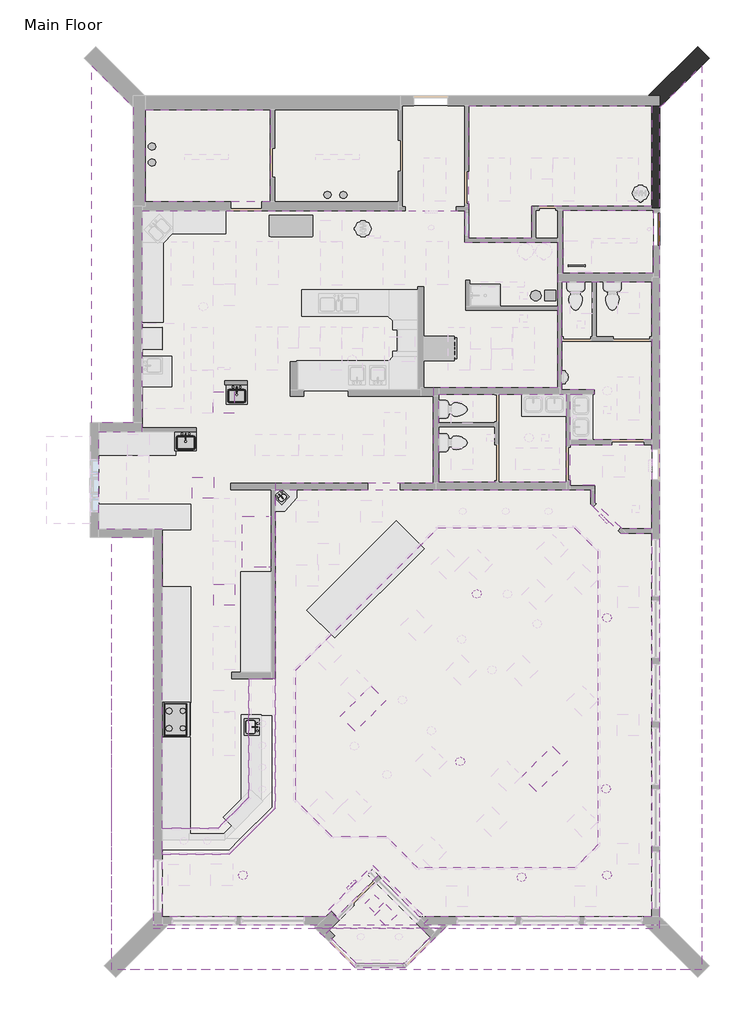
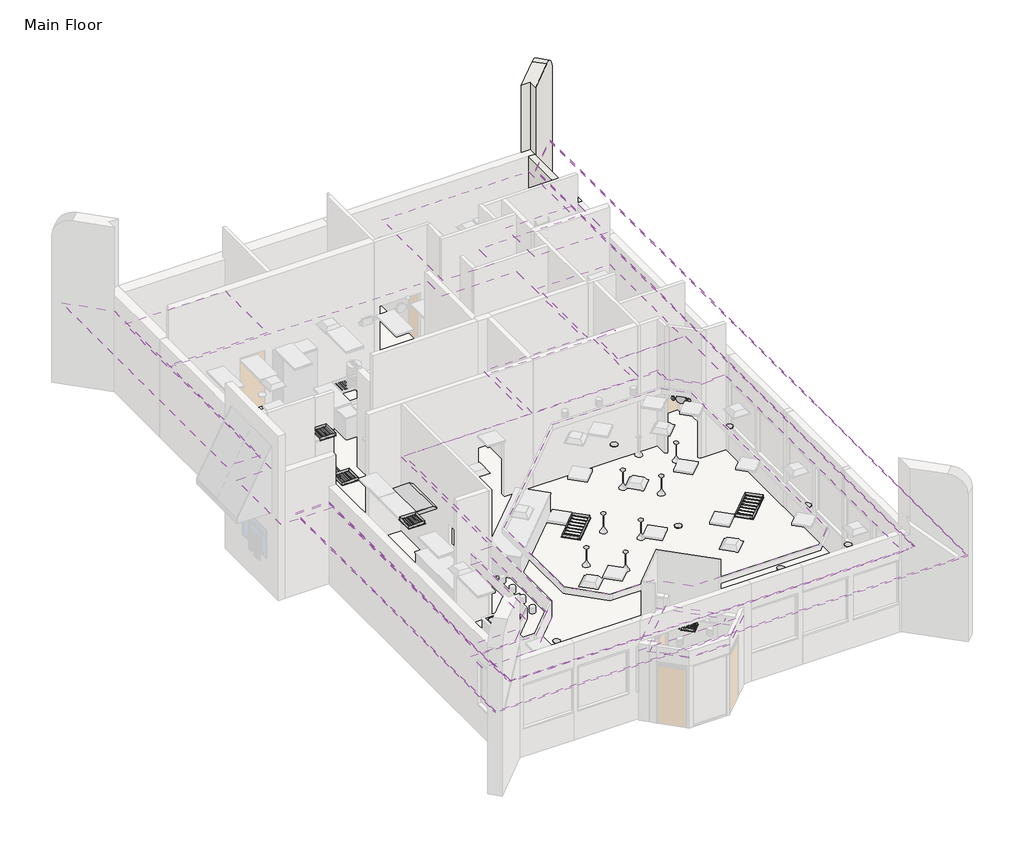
# One storey, part 4 of 6: 18 proxies, 12 coverings, 5 flow terminals, 3 roofs, 2 walls, 1 door, 1 slab.
"""IFC4 building model written with IfcOpenShell, lengths in millimetres."""

from ifc_helpers import new_model, si_unit, point, frame, frame_2d, origin, place, context, project, spatial, polyline, circle_curve, trimmed, segment, composite_curve, outline, extrude, faceted_brep, transform, mapped, element, save
from ifc_brep_helpers import plane_surface, cylinder_surface, advanced_brep
from components import air_vent_default_1_d5ec2509, air_vent_default_1_fb4192dc, air_vent_default_1_fc0a5ae6, air_vent_default_1_b0c71248, default_1_30724830, default_1_ff680e1f, exhaust_hood_default_1_44690a08, speaker_default_1_aa482b27, stove_default_1_1e377b31, door_dec22b3d, flow_terminal_2d_kitchen_single_sink_default_1_dc3512ad, flow_terminal_2d_kitchen_single_sink_default_1_f412850b, flow_terminal_2d_kitchen_single_sink_default_1_0d85b589, flow_terminal_2d_kitchen_single_sink_default_1_8fd3c1d6, kitchen_sink_floor_default_1_fab1836c

model = new_model("IFC4")

# Units and contexts
model_context = context("Model", 3, world=origin())
ifc_project = project(units=[si_unit("LENGTHUNIT", "METRE", prefix="MILLI")], contexts=[model_context])

# Site, building, storey
site = spatial("IfcSite", under=ifc_project)
building = spatial("IfcBuilding", under=site)
storey = spatial("IfcBuildingStorey", under=building, Name="Main Floor", Elevation=0.0)

# Proxies
placement = place(None, origin())
air_vent_default_1_shape = air_vent_default_1_d5ec2509(model_context)
element("IfcBuildingElementProxy", 1, Name="Air Vent : Default 1", ObjectType="Air Vent : Default 1", at=placement, inside=storey, context=model_context, shape_type="MappedRepresentation", body=[
    mapped(air_vent_default_1_shape, transform((-3557.5137673, 3184.3499204, 152.4), x_axis=(1.0, 0.0, 0.0), y_axis=(0.0, 1.0, 0.0), z_axis=(0.0, 0.0, 1.0))),
])
element("IfcBuildingElementProxy", 2, Name="Air Vent : Default 1", ObjectType="Air Vent : Default 1", at=placement, inside=storey, context=model_context, shape_type="MappedRepresentation", body=[
    mapped(air_vent_default_1_shape, transform((-3541.0666136, -2206.8000796, 152.4), x_axis=(1.0, 0.0, 0.0), y_axis=(0.0, 1.0, 0.0), z_axis=(0.0, 0.0, 1.0))),
])
element("IfcBuildingElementProxy", 3, Name="Air Vent : Default 1", ObjectType="Air Vent : Default 1", at=placement, inside=storey, context=model_context, shape_type="MappedRepresentation", body=[
    mapped(air_vent_default_1_shape, transform((-4141.1416136, 796.7499204, 152.4), x_axis=(1.0, 0.0, 0.0), y_axis=(0.0, 1.0, 0.0), z_axis=(0.0, 0.0, 1.0))),
])
air_vent_default_1_2_shape = air_vent_default_1_fb4192dc(model_context)
element("IfcBuildingElementProxy", 4, Name="Air Vent : Default 1", ObjectType="Air Vent : Default 1", at=placement, inside=storey, context=model_context, shape_type="MappedRepresentation", body=[
    mapped(air_vent_default_1_2_shape, transform((5438.6516117, -7089.6550599, 508.0), x_axis=(0.7071067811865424, 0.7071067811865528, 0.0), y_axis=(-0.7071067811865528, 0.7071067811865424, 0.0), z_axis=(0.0, 0.0, 1.0))),
])
element("IfcBuildingElementProxy", 5, Name="Air Vent : Default 1", ObjectType="Air Vent : Default 1", at=placement, inside=storey, context=model_context, shape_type="MappedRepresentation", body=[
    mapped(air_vent_default_1_2_shape, transform((350.4595966, -5395.8311867, 508.0), x_axis=(0.7071067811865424, 0.7071067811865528, 0.0), y_axis=(-0.7071067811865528, 0.7071067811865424, 0.0), z_axis=(0.0, 0.0, 1.0))),
])
air_vent_default_1_3_shape = air_vent_default_1_fc0a5ae6(model_context)
element("IfcBuildingElementProxy", 6, Name="Air Vent : Default 1", ObjectType="Air Vent : Default 1", at=placement, inside=storey, context=model_context, shape_type="MappedRepresentation", body=[
    mapped(air_vent_default_1_3_shape, transform((659.7977661, -10862.4632775, 101.6), x_axis=(0.7071067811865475, -0.7071067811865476, 0.0), y_axis=(0.7071067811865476, 0.7071067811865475, 0.0), z_axis=(0.0, 0.0, 1.0))),
])
air_vent_default_1_4_shape = air_vent_default_1_b0c71248(model_context)
element("IfcBuildingElementProxy", 7, Name="Air Vent : Default 1", ObjectType="Air Vent : Default 1", at=placement, inside=storey, context=model_context, shape_type="MappedRepresentation", body=[
    mapped(air_vent_default_1_4_shape, transform((984.3109825, -11186.9764939, 101.6), x_axis=(0.7071067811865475, -0.7071067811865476, 0.0), y_axis=(0.7071067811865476, 0.7071067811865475, 0.0), z_axis=(0.0, 0.0, 1.0))),
])
default_1_shape = default_1_30724830(model_context)
element("IfcBuildingElementProxy", 8, Name="Emegency Light - Wall Mounted : Default 1", ObjectType="Emegency Light - Wall Mounted : Default 1", at=placement, inside=storey, context=model_context, shape_type="MappedRepresentation", body=[
    mapped(default_1_shape, transform((7131.2811461, -48.2570576, 304.8), x_axis=(0.7071067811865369, -0.7071067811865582, 0.0), y_axis=(0.7071067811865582, 0.7071067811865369, 0.0), z_axis=(0.0, 0.0, 1.0))),
])
default_1_2_shape = default_1_ff680e1f(model_context)
element("IfcBuildingElementProxy", 9, Name="Emegency Light - Wall Mounted : Default 1", ObjectType="Emegency Light - Wall Mounted : Default 1", at=placement, inside=storey, context=model_context, shape_type="MappedRepresentation", body=[
    mapped(default_1_2_shape, transform((56.5683228, -10361.2626393, 304.8), x_axis=(-0.7071067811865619, -0.7071067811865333, 0.0), y_axis=(0.7071067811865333, -0.7071067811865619, 0.0), z_axis=(0.0, 0.0, 1.0))),
])
exhaust_hood_default_1_shape = exhaust_hood_default_1_44690a08(model_context)
element("IfcBuildingElementProxy", 10, Name="Exhaust Hood : Default 1", ObjectType="Exhaust Hood : Default 1", at=placement, inside=storey, context=model_context, shape_type="MappedRepresentation", body=[
    mapped(exhaust_hood_default_1_shape, transform((-3039.4166136, -1432.1000796, 0.0), x_axis=(1.0, 0.0, 0.0), y_axis=(0.0, 1.0, 0.0), z_axis=(0.0, 0.0, 1.0))),
])
speaker_default_1_shape = speaker_default_1_aa482b27(model_context)
element("IfcBuildingElementProxy", 11, Name="Speaker : Default 1", ObjectType="Speaker : Default 1", at=placement, inside=storey, context=model_context, shape_type="MappedRepresentation", body=[
    mapped(speaker_default_1_shape, transform((7167.0833864, -7646.1501819, 304.8), x_axis=(1.0, 0.0, 0.0), y_axis=(0.0, 1.0, 0.0), z_axis=(0.0, 0.0, 1.0))),
])
element("IfcBuildingElementProxy", 12, Name="Speaker : Default 1", ObjectType="Speaker : Default 1", at=placement, inside=storey, context=model_context, shape_type="MappedRepresentation", body=[
    mapped(speaker_default_1_shape, transform((7192.4833864, -2848.4642657, 304.8), x_axis=(1.0, 0.0, 0.0), y_axis=(0.0, 1.0, 0.0), z_axis=(0.0, 0.0, 1.0))),
])
element("IfcBuildingElementProxy", 13, Name="Speaker : Default 1", ObjectType="Speaker : Default 1", at=placement, inside=storey, context=model_context, shape_type="MappedRepresentation", body=[
    mapped(speaker_default_1_shape, transform((7192.4833864, -10067.4696543, 304.8), x_axis=(1.0, 0.0, 0.0), y_axis=(0.0, 1.0, 0.0), z_axis=(0.0, 0.0, 1.0))),
])
element("IfcBuildingElementProxy", 14, Name="Speaker : Default 1", ObjectType="Speaker : Default 1", at=placement, inside=storey, context=model_context, shape_type="MappedRepresentation", body=[
    mapped(speaker_default_1_shape, transform((4798.5333864, -10124.6196543, 304.8), x_axis=(1.0, 0.0, 0.0), y_axis=(0.0, 1.0, 0.0), z_axis=(0.0, 0.0, 1.0))),
])
element("IfcBuildingElementProxy", 15, Name="Speaker : Default 1", ObjectType="Speaker : Default 1", at=placement, inside=storey, context=model_context, shape_type="MappedRepresentation", body=[
    mapped(speaker_default_1_shape, transform((-3018.1033829, -10068.1000796, 304.8), x_axis=(1.0, 0.0, 0.0), y_axis=(0.0, 1.0, 0.0), z_axis=(0.0, 0.0, 1.0))),
])
element("IfcBuildingElementProxy", 16, Name="Speaker : Default 1", ObjectType="Speaker : Default 1", at=placement, inside=storey, context=model_context, shape_type="MappedRepresentation", body=[
    mapped(speaker_default_1_shape, transform((3542.9229313, -2180.0353281, 508.0), x_axis=(1.0, 0.0, 0.0), y_axis=(0.0, 1.0, 0.0), z_axis=(0.0, 0.0, 1.0))),
])
element("IfcBuildingElementProxy", 17, Name="Speaker : Default 1", ObjectType="Speaker : Default 1", at=placement, inside=storey, context=model_context, shape_type="MappedRepresentation", body=[
    mapped(speaker_default_1_shape, transform((3075.6333864, -6878.6951564, 508.0), x_axis=(1.0, 0.0, 0.0), y_axis=(0.0, 1.0, 0.0), z_axis=(0.0, 0.0, 1.0))),
])
stove_default_1_shape = stove_default_1_1e377b31(model_context)
element("IfcBuildingElementProxy", 18, Name="Stove : Default 1", ObjectType="Stove : Default 1", at=placement, inside=storey, context=model_context, shape_type="MappedRepresentation", body=[
    mapped(stove_default_1_shape, transform((-5280.7666136, -5704.6500796, 0.0), x_axis=(0.0, 1.0, 0.0), y_axis=(-1.0, 0.0, 0.0), z_axis=(0.0, 0.0, 1.0))),
])

# Coverings
element("IfcCovering", 19, ObjectType="1/2\" Ceiling", at=placement, inside=storey, context=model_context, shape_type="SweptSolid", body=[
    extrude(outline(polyline([(-5846.1166136, 8569.1499204), (3202.6333864, 8569.1499204), (3202.6333864, 7680.1499204), (5812.4833864, 7680.1499204), (5812.4833864, 5883.0999204), (5812.4833864, 3603.4499204), (2313.6333864, 3603.4499204), (2313.6333864, 923.7499204), (-2112.3166136, 923.7499204), (-2112.3166136, -4556.3000796), (-2848.9166136, -4556.3000796), (-2848.9166136, -7886.6107256), (-3709.6059676, -8747.3000796), (-5274.6166136, -8747.3000796), (-5274.6166136, -365.3000796), (-7058.9666136, -365.3000796), (-7058.9666136, 2365.1999204), (-5846.1166136, 2365.1999204), (-5846.1166136, 8569.1499204)]), holes=[polyline([(4567.8833864, 5279.8499204), (4567.8833864, 4111.4499204), (5126.6833864, 4111.4499204), (5126.6833864, 5279.8499204), (4567.8833864, 5279.8499204)]), polyline([(2770.8333864, 5279.8499204), (2770.8333864, 4111.4499204), (3329.6333864, 4111.4499204), (3329.6333864, 5279.8499204), (2770.8333864, 5279.8499204)]), polyline([(4531.0515232, 4721.0499204), (4531.0515232, 5279.8499204), (3972.2515232, 5279.8499204), (3972.2515232, 4721.0499204), (4531.0515232, 4721.0499204)]), polyline([(4933.353255, 5463.9999204), (4933.353255, 5629.0999204), (4768.253255, 5629.0999204), (4768.253255, 5463.9999204), (4933.353255, 5463.9999204)]), polyline([(4531.0515232, 4124.1499204), (4531.0515232, 4682.9499204), (3972.2515232, 4682.9499204), (3972.2515232, 4124.1499204), (4531.0515232, 4124.1499204)]), polyline([(3934.1515232, 4124.1499204), (3934.1515232, 4682.9499204), (3375.3515232, 4682.9499204), (3375.3515232, 4124.1499204), (3934.1515232, 4124.1499204)]), polyline([(4933.353255, 6098.9999204), (4933.353255, 6264.0999204), (4768.253255, 6264.0999204), (4768.253255, 6098.9999204), (4933.353255, 6098.9999204)]), polyline([(2154.8833864, 7680.1499204), (2154.8833864, 6511.7499204), (2713.6833864, 6511.7499204), (2713.6833864, 7680.1499204), (2154.8833864, 7680.1499204)]), polyline([(942.0333864, 7680.1499204), (942.0333864, 6511.7499204), (1500.8333864, 6511.7499204), (1500.8333864, 7680.1499204), (942.0333864, 7680.1499204)]), polyline([(-810.5666136, 7673.7999204), (-810.5666136, 6505.3999204), (-251.7666136, 6505.3999204), (-251.7666136, 7673.7999204), (-810.5666136, 7673.7999204)]), polyline([(-2607.6166136, 7680.1499204), (-2607.6166136, 6511.7499204), (-2048.8166136, 6511.7499204), (-2048.8166136, 7680.1499204), (-2607.6166136, 7680.1499204)]), polyline([(-3807.7666136, 7692.0474007), (-3807.7666136, 6523.6474007), (-3248.9666136, 6523.6474007), (-3248.9666136, 7692.0474007), (-3807.7666136, 7692.0474007)]), polyline([(-5001.5666136, 7673.7999204), (-5001.5666136, 6505.3999204), (-4442.7666136, 6505.3999204), (-4442.7666136, 7673.7999204), (-5001.5666136, 7673.7999204)]), polyline([(-870.115512, 4731.488886), (-870.115512, 5290.288886), (-1428.915512, 5290.288886), (-1428.915512, 4731.488886), (-870.115512, 4731.488886)]), polyline([(-1467.0156402, 4731.4890104), (-1467.0156402, 5290.2890104), (-2025.8156402, 5290.2890104), (-2025.8156402, 4731.4890104), (-1467.0156402, 4731.4890104)]), polyline([(-829.6166136, 5286.1999204), (-829.6166136, 4117.7999204), (-270.8166136, 4117.7999204), (-270.8166136, 5286.1999204), (-829.6166136, 5286.1999204)]), polyline([(364.1833864, 5279.8499204), (364.1833864, 4111.4499204), (922.9833864, 4111.4499204), (922.9833864, 5279.8499204), (364.1833864, 5279.8499204)]), polyline([(-4436.4166136, 5279.8499204), (-4436.4166136, 4111.4499204), (-3877.6166136, 4111.4499204), (-3877.6166136, 5279.8499204), (-4436.4166136, 5279.8499204)]), polyline([(-4436.4166136, 4073.3499204), (-4436.4166136, 2904.9499204), (-3877.6166136, 2904.9499204), (-3877.6166136, 4073.3499204), (-4436.4166136, 4073.3499204)]), polyline([(-3278.1137673, 2904.9499204), (-3278.1137673, 3463.7499204), (-3836.9137673, 3463.7499204), (-3836.9137673, 2904.9499204), (-3278.1137673, 2904.9499204)]), polyline([(-1483.6666136, 2276.2999204), (-2652.0666136, 2276.2999204), (-2652.0666136, 1717.4999204), (-1483.6666136, 1717.4999204), (-1483.6666136, 2276.2999204)]), polyline([(-264.4666136, 2276.2999204), (-1432.8666136, 2276.2999204), (-1432.8666136, 1717.4999204), (-264.4666136, 1717.4999204), (-264.4666136, 2276.2999204)]), polyline([(967.4333864, 2885.8999204), (967.4333864, 1717.4999204), (1526.2333864, 1717.4999204), (1526.2333864, 2885.8999204), (967.4333864, 2885.8999204)]), polyline([(-3826.8166136, -5521.5000796), (-3826.8166136, -6689.9000796), (-3268.0166136, -6689.9000796), (-3268.0166136, -5521.5000796), (-3826.8166136, -5521.5000796)]), polyline([(-3820.4666136, -3108.5000796), (-3820.4666136, -4276.9000796), (-3261.6666136, -4276.9000796), (-3261.6666136, -3108.5000796), (-3820.4666136, -3108.5000796)]), polyline([(-3261.6666136, -2486.2000796), (-3261.6666136, -1927.4000796), (-3820.4666136, -1927.4000796), (-3820.4666136, -2486.2000796), (-3261.6666136, -2486.2000796)]), polyline([(-3820.4666136, -714.5500796), (-3820.4666136, -1882.9500796), (-3261.6666136, -1882.9500796), (-3261.6666136, -714.5500796), (-3820.4666136, -714.5500796)]), polyline([(-3820.4666136, 479.2499204), (-3820.4666136, -689.1500796), (-3261.6666136, -689.1500796), (-3261.6666136, 479.2499204), (-3820.4666136, 479.2499204)]), polyline([(-3861.7416136, 517.3499204), (-3861.7416136, 1076.1499204), (-4420.5416136, 1076.1499204), (-4420.5416136, 517.3499204), (-3861.7416136, 517.3499204)]), polyline([(-6246.1666136, 1673.0499204), (-6246.1666136, 504.6499204), (-5687.3666136, 504.6499204), (-5687.3666136, 1673.0499204), (-6246.1666136, 1673.0499204)]), polyline([(-2629.6166136, 5286.1999204), (-2629.6166136, 4117.7999204), (-2070.8166136, 4117.7999204), (-2070.8166136, 5286.1999204), (-2629.6166136, 5286.1999204)])]), frame((0.0, 0.0, 2590.8), z_axis=(0.0, 0.0, 1.0), x_axis=(1.0, 0.0, 0.0)), (0.0, 0.0, 1.0), 12.7),
])
element("IfcCovering", 20, ObjectType="1/2\" Ceiling", at=placement, inside=storey, context=model_context, shape_type="SweptSolid", body=[
    extrude(outline(polyline([(-2848.9166136, -4556.3000796), (-2112.3166136, -4556.3000796), (-2112.3166136, -8191.7204356), (-3404.4962576, -9483.9000796), (-5274.6166136, -9483.9000796), (-5274.6166136, -8747.3000796), (-3709.6059676, -8747.3000796), (-2848.9166136, -7886.6107256), (-2848.9166136, -4556.3000796)]), holes=[composite_curve([segment(trimmed(circle_curve(frame_2d((-4671.3666136, -9111.2045545)), 87.3), [point((-4584.0666136, -9111.2045545))], [point((-4758.6666136, -9111.2045545))], True, "CARTESIAN"), True, "CONTINUOUS"), segment(trimmed(circle_curve(frame_2d((-4671.3666136, -9111.2045545)), 87.3), [point((-4758.6666136, -9111.2045545))], [point((-4584.0666136, -9111.2045545))], True, "CARTESIAN"), True, "CONTINUOUS")], self_intersect=False), composite_curve([segment(trimmed(circle_curve(frame_2d((-4017.3166136, -9111.2045545)), 87.3), [point((-3930.0166136, -9111.2045545))], [point((-4104.6166136, -9111.2045545))], True, "CARTESIAN"), True, "CONTINUOUS"), segment(trimmed(circle_curve(frame_2d((-4017.3166136, -9111.2045545)), 87.3), [point((-4104.6166136, -9111.2045545))], [point((-3930.0166136, -9111.2045545))], True, "CARTESIAN"), True, "CONTINUOUS")], self_intersect=False), composite_curve([segment(trimmed(circle_curve(frame_2d((-2474.2666136, -7655.1000796)), 87.3), [point((-2386.9666136, -7655.1000796))], [point((-2561.5666136, -7655.1000796))], True, "CARTESIAN"), True, "CONTINUOUS"), segment(trimmed(circle_curve(frame_2d((-2474.2666136, -7655.1000796)), 87.3), [point((-2561.5666136, -7655.1000796))], [point((-2386.9666136, -7655.1000796))], True, "CARTESIAN"), True, "CONTINUOUS")], self_intersect=False), composite_curve([segment(trimmed(circle_curve(frame_2d((-2474.2666136, -7043.383413)), 87.3), [point((-2386.9666136, -7043.383413))], [point((-2561.5666136, -7043.383413))], True, "CARTESIAN"), True, "CONTINUOUS"), segment(trimmed(circle_curve(frame_2d((-2474.2666136, -7043.383413)), 87.3), [point((-2561.5666136, -7043.383413))], [point((-2386.9666136, -7043.383413))], True, "CARTESIAN"), True, "CONTINUOUS")], self_intersect=False), composite_curve([segment(trimmed(circle_curve(frame_2d((-2474.2666136, -6431.6667463)), 87.3), [point((-2386.9666136, -6431.6667463))], [point((-2561.5666136, -6431.6667463))], True, "CARTESIAN"), True, "CONTINUOUS"), segment(trimmed(circle_curve(frame_2d((-2474.2666136, -6431.6667463)), 87.3), [point((-2561.5666136, -6431.6667463))], [point((-2386.9666136, -6431.6667463))], True, "CARTESIAN"), True, "CONTINUOUS")], self_intersect=False), composite_curve([segment(trimmed(circle_curve(frame_2d((-2474.2666136, -5819.9500796)), 87.3), [point((-2386.9666136, -5819.9500796))], [point((-2561.5666136, -5819.9500796))], True, "CARTESIAN"), True, "CONTINUOUS"), segment(trimmed(circle_curve(frame_2d((-2474.2666136, -5819.9500796)), 87.3), [point((-2561.5666136, -5819.9500796))], [point((-2386.9666136, -5819.9500796))], True, "CARTESIAN"), True, "CONTINUOUS")], self_intersect=False)]), frame((0.0, 0.0, 2184.4), z_axis=(0.0, 0.0, 1.0), x_axis=(1.0, 0.0, 0.0)), (0.0, 0.0, 1.0), 12.7),
])
element("IfcCovering", 21, ObjectType="1/2\" Ceiling", at=placement, inside=storey, context=model_context, shape_type="SweptSolid", body=[
    extrude(outline(polyline([(6936.4333864, -9217.2000796), (6289.3638117, -9864.2696543), (1884.5145011, -9864.2696543), (1004.4494013, -8984.2045545), (-519.5505987, -8984.2045545), (-1543.2997965, -7960.4553567), (-1543.2997965, -4328.2553567), (2461.8944335, -323.0611267), (6271.8944335, -323.0611267), (6936.4333864, -987.6000796), (6936.4333864, -9217.2000796)]), holes=[polyline([(2255.8586998, -9021.572648), (1860.7274304, -9416.7039173), (2255.8586998, -9811.8351867), (2650.9899691, -9416.7039173), (2255.8586998, -9021.572648)]), polyline([(145.4155812, -7742.7394651), (-249.7156881, -8137.8707344), (145.4155812, -8533.0020037), (540.5468505, -8137.8707344), (145.4155812, -7742.7394651)]), polyline([(6504.1654832, -1381.5157396), (6109.0342139, -1776.6470089), (6504.1654832, -2171.7782782), (6899.2967525, -1776.6470089), (6504.1654832, -1381.5157396)]), polyline([(5659.4343476, -536.784604), (5264.3030783, -931.9158733), (5659.4343476, -1327.0471426), (6054.565617, -931.9158733), (5659.4343476, -536.784604)]), polyline([(157.38409, -4340.6510925), (-237.7471793, -4735.7823618), (157.38409, -5130.9136311), (552.5153594, -4735.7823618), (157.38409, -4340.6510925)]), polyline([(1842.812782, -2666.3519534), (1447.6815126, -3061.4832227), (1842.812782, -3456.6144921), (2237.9440513, -3061.4832227), (1842.812782, -2666.3519534)]), polyline([(3549.0109938, -960.1537415), (3153.8797245, -1355.2850109), (3549.0109938, -1750.4162802), (3944.1422632, -1355.2850109), (3549.0109938, -960.1537415)]), polyline([(6505.451978, -8175.4194842), (6110.3207087, -8570.5507535), (6505.451978, -8965.6820228), (6900.5832474, -8570.5507535), (6505.451978, -8175.4194842)]), polyline([(5658.6678866, -6474.5075156), (4823.5040674, -7309.6713349), (5218.6353367, -7704.8026042), (6053.799156, -6869.6387849), (5658.6678866, -6474.5075156)]), polyline([(4374.3073523, -6894.0667839), (3979.176083, -7289.1980532), (4374.3073523, -7684.3293225), (4769.4386216, -7289.1980532), (4374.3073523, -6894.0667839)]), polyline([(6500.17871, -4786.3165509), (6105.0474407, -5181.4478202), (6500.17871, -5576.5790895), (6895.3099793, -5181.4478202), (6500.17871, -4786.3165509)]), polyline([(2261.7972579, -6482.8871859), (1866.6659886, -6878.0184552), (2261.7972579, -7273.1497246), (2656.9285272, -6878.0184552), (2261.7972579, -6482.8871859)]), polyline([(4815.0906433, -3937.0457605), (4419.959374, -4332.1770298), (4815.0906433, -4727.3082991), (5210.2219127, -4332.1770298), (4815.0906433, -3937.0457605)]), polyline([(570.4758716, -4780.6836424), (-264.6879477, -5615.8474617), (130.4433217, -6010.978731), (965.6071409, -5175.8149117), (570.4758716, -4780.6836424)])]), frame((0.0, 0.0, 2946.4), z_axis=(0.0, 0.0, 1.0), x_axis=(1.0, 0.0, 0.0)), (0.0, 0.0, 1.0), 12.7),
])
element("IfcCovering", 22, ObjectType="1/2\" Ceiling", at=placement, inside=storey, context=model_context, shape_type="SweptSolid", body=[
    extrude(outline(polyline([(-2112.3166136, 745.9499204), (6739.5833864, 745.9499204), (6739.5833864, 327.8971204), (7573.8358864, -473.2500796), (8447.7333864, -473.2500796), (8447.7333864, -11229.6312018), (1924.9913024, -11229.6312018), (772.1216783, -10076.7615776), (-402.2417187, -11251.1249745), (-554.9060727, -11098.4606205), (-686.076654, -11229.6312018), (-5274.6166136, -11229.6312018), (-5274.6166136, -9483.9000796), (-3404.4962576, -9483.9000796), (-2112.3166136, -8191.7204356), (-2112.3166136, -4556.3000796), (-2112.3166136, 745.9499204)]), holes=[polyline([(-1543.2997965, -4328.2553567), (-1543.2997965, -7960.4553567), (-519.5505987, -8984.2045545), (1004.4494013, -8984.2045545), (1884.5145011, -9864.2696543), (6289.3638117, -9864.2696543), (6936.4333864, -9217.2000796), (6936.4333864, -987.6000796), (6271.8944335, -323.0611267), (2461.8944335, -323.0611267), (-1543.2997965, -4328.2553567)]), polyline([(-3335.8166136, -9776.0000796), (-3894.6166136, -9776.0000796), (-3894.6166136, -10334.8000796), (-3335.8166136, -10334.8000796), (-3335.8166136, -9776.0000796)]), polyline([(-934.3916136, 418.9249204), (-1493.1916136, 418.9249204), (-1493.1916136, -139.8750796), (-934.3916136, -139.8750796), (-934.3916136, 418.9249204)]), polyline([(869.0083864, 418.9249204), (310.2083864, 418.9249204), (310.2083864, -139.8750796), (869.0083864, -139.8750796), (869.0083864, 418.9249204)]), polyline([(-934.3916136, -1384.4750796), (-1493.1916136, -1384.4750796), (-1493.1916136, -1943.2750796), (-934.3916136, -1943.2750796), (-934.3916136, -1384.4750796)]), composite_curve([segment(trimmed(circle_curve(frame_2d((5552.1333864, 134.1388733)), 87.3), [point((5639.4333864, 134.1388733))], [point((5464.8333864, 134.1388733))], True, "CARTESIAN"), True, "CONTINUOUS"), segment(trimmed(circle_curve(frame_2d((5552.1333864, 134.1388733)), 87.3), [point((5464.8333864, 134.1388733))], [point((5639.4333864, 134.1388733))], True, "CARTESIAN"), True, "CONTINUOUS")], self_intersect=False), composite_curve([segment(trimmed(circle_curve(frame_2d((4352.1333864, 134.1388733)), 87.3), [point((4439.4333864, 134.1388733))], [point((4264.8333864, 134.1388733))], True, "CARTESIAN"), True, "CONTINUOUS"), segment(trimmed(circle_curve(frame_2d((4352.1333864, 134.1388733)), 87.3), [point((4264.8333864, 134.1388733))], [point((4439.4333864, 134.1388733))], True, "CARTESIAN"), True, "CONTINUOUS")], self_intersect=False), composite_curve([segment(trimmed(circle_curve(frame_2d((3152.1333864, 134.1388733)), 87.3), [point((3239.4333864, 134.1388733))], [point((3064.8333864, 134.1388733))], True, "CARTESIAN"), True, "CONTINUOUS"), segment(trimmed(circle_curve(frame_2d((3152.1333864, 134.1388733)), 87.3), [point((3064.8333864, 134.1388733))], [point((3239.4333864, 134.1388733))], True, "CARTESIAN"), True, "CONTINUOUS")], self_intersect=False)]), frame((0.0, 0.0, 2743.2), z_axis=(0.0, 0.0, 1.0), x_axis=(1.0, 0.0, 0.0)), (0.0, 0.0, 1.0), 12.7),
])
element("IfcCovering", 23, ObjectType="1/2\" Ceiling", at=placement, inside=storey, context=model_context, shape_type="SweptSolid", body=[
    extrude(outline(polyline([(6853.8833864, 860.2475204), (6168.0833864, 860.2475204), (6168.0833864, 2009.5999204), (8447.7333864, 2009.5999204), (8447.7333864, -358.9500796), (7619.8309189, -358.9500796), (6853.8833864, 376.6026708), (6853.8833864, 860.2475204)]), holes=[polyline([(8079.4333864, 281.5390826), (7914.3333864, 281.5390826), (7914.3333864, 116.4390826), (8079.4333864, 116.4390826), (8079.4333864, 281.5390826)]), polyline([(7660.3333864, 1682.0892324), (7101.5333864, 1682.0892324), (7101.5333864, 1123.2892324), (7660.3333864, 1123.2892324), (7660.3333864, 1682.0892324)])]), frame((0.0, 0.0, 2692.4), z_axis=(0.0, 0.0, 1.0), x_axis=(1.0, 0.0, 0.0)), (0.0, 0.0, 1.0), 12.7),
])
element("IfcCovering", 24, ObjectType="1/2\" Ceiling", at=placement, inside=storey, context=model_context, shape_type="SweptSolid", body=[
    extrude(outline(polyline([(2478.7333864, 949.1499204), (2478.7333864, 3425.6499204), (5869.6333864, 3425.6499204), (6053.7833864, 3425.6499204), (6053.7833864, 949.1499204), (2478.7333864, 949.1499204)]), holes=[polyline([(5831.5333864, 1888.9499204), (4663.1333864, 1888.9499204), (4663.1333864, 1330.1499204), (5831.5333864, 1330.1499204), (5831.5333864, 1888.9499204)]), polyline([(5545.7833864, 2117.5499204), (5545.7833864, 2282.6499204), (5380.6833864, 2282.6499204), (5380.6833864, 2117.5499204), (5545.7833864, 2117.5499204)]), polyline([(4009.0833864, 2117.5499204), (4009.0833864, 2282.6499204), (3843.9833864, 2282.6499204), (3843.9833864, 2117.5499204), (4009.0833864, 2117.5499204)]), polyline([(3405.8333864, 1888.9499204), (2847.0333864, 1888.9499204), (2847.0333864, 1330.1499204), (3405.8333864, 1330.1499204), (3405.8333864, 1888.9499204)]), polyline([(3405.8333864, 3197.0499204), (2847.0333864, 3197.0499204), (2847.0333864, 2638.2499204), (3405.8333864, 2638.2499204), (3405.8333864, 3197.0499204)])]), frame((0.0, 0.0, 2590.8), z_axis=(0.0, 0.0, 1.0), x_axis=(1.0, 0.0, 0.0)), (0.0, 0.0, 1.0), 12.7),
])
element("IfcCovering", 25, ObjectType="1/2\" Ceiling", at=placement, inside=storey, context=model_context, shape_type="SweptSolid", body=[
    extrude(outline(polyline([(6168.0833864, 3425.6499204), (6841.1833864, 3425.6499204), (6841.1833864, 3539.9499204), (5926.7833864, 3539.9499204), (5926.7833864, 6581.5999204), (8447.7333864, 6581.5999204), (8447.7333864, 2136.5999204), (6168.0833864, 2136.5999204), (6168.0833864, 3425.6499204)]), holes=[polyline([(7511.1083864, 3882.9454526), (7511.1083864, 2714.5454526), (8069.9083864, 2714.5454526), (8069.9083864, 3882.9454526), (7511.1083864, 3882.9454526)]), polyline([(7285.6833864, 2892.2499204), (7285.6833864, 3057.3499204), (7120.5833864, 3057.3499204), (7120.5833864, 2892.2499204), (7285.6833864, 2892.2499204)]), polyline([(8073.0833864, 6257.7499204), (7514.2833864, 6257.7499204), (7514.2833864, 5698.9499204), (8073.0833864, 5698.9499204), (8073.0833864, 6257.7499204)]), polyline([(6752.2833864, 6257.7499204), (6193.4833864, 6257.7499204), (6193.4833864, 5698.9499204), (6752.2833864, 5698.9499204), (6752.2833864, 6257.7499204)]), polyline([(6549.0833864, 5457.6499204), (6383.9833864, 5457.6499204), (6383.9833864, 5292.5499204), (6549.0833864, 5292.5499204), (6549.0833864, 5457.6499204)])]), frame((0.0, 0.0, 2590.8), z_axis=(0.0, 0.0, 1.0), x_axis=(1.0, 0.0, 0.0)), (0.0, 0.0, 1.0), 12.7),
])
element("IfcCovering", 26, ObjectType="1/2\" Ceiling", at=placement, inside=storey, context=model_context, shape_type="SweptSolid", body=[
    extrude(outline(polyline([(5196.5333864, 8575.4999204), (5812.4833864, 8575.4999204), (5812.4833864, 7794.4499204), (5196.5333864, 7794.4499204), (5196.5333864, 8575.4999204)])), frame((0.0, 0.0, 3048.0), z_axis=(0.0, 0.0, 1.0), x_axis=(1.0, 0.0, 0.0)), (0.0, 0.0, 1.0), 12.7),
    extrude(outline(polyline([(8447.7333864, 8689.7999204), (5082.2333864, 8689.7999204), (5082.2333864, 7794.4499204), (3316.9333864, 7794.4499204), (3316.9333864, 11509.1999204), (8447.7333864, 11509.1999204), (8447.7333864, 8689.7999204)]), holes=[polyline([(3889.061012, 10029.6499204), (3889.061012, 8861.2499204), (4447.861012, 8861.2499204), (4447.861012, 10029.6499204), (3889.061012, 10029.6499204)]), polyline([(5692.461012, 10029.6499204), (5692.461012, 8861.2499204), (6251.261012, 8861.2499204), (6251.261012, 10029.6499204), (5692.461012, 10029.6499204)]), polyline([(7489.511012, 10029.6499204), (7489.511012, 8861.2499204), (8048.311012, 8861.2499204), (8048.311012, 10029.6499204), (7489.511012, 10029.6499204)])]), frame((0.0, 0.0, 3048.0), z_axis=(0.0, 0.0, 1.0), x_axis=(1.0, 0.0, 0.0)), (0.0, 0.0, 1.0), 12.7),
    extrude(outline(polyline([(3202.6333864, 8683.4499204), (1456.3833864, 8683.4499204), (1456.3833864, 11509.1999204), (3202.6333864, 11509.1999204), (3202.6333864, 8683.4499204)]), holes=[polyline([(2085.661012, 10029.6499204), (2085.661012, 8861.2499204), (2644.461012, 8861.2499204), (2644.461012, 10029.6499204), (2085.661012, 10029.6499204)])]), frame((0.0, 0.0, 3048.0), z_axis=(0.0, 0.0, 1.0), x_axis=(1.0, 0.0, 0.0)), (0.0, 0.0, 1.0), 12.7),
])
element("IfcCovering", 27, ObjectType="1/2\" Ceiling", at=placement, inside=storey, context=model_context, shape_type="SweptSolid", body=[
    extrude(outline(polyline([(-2245.6666136, 11394.8999204), (-2245.6666136, 8823.1499204), (-5757.2166136, 8823.1499204), (-5757.2166136, 11394.8999204), (-2245.6666136, 11394.8999204)])), frame((0.0, 0.0, 2438.4), z_axis=(0.0, 0.0, 1.0), x_axis=(1.0, 0.0, 0.0)), (0.0, 0.0, 1.0), 12.7),
    extrude(outline(polyline([(1342.0833864, 11394.8999204), (1342.0833864, 8823.1499204), (-2131.3666136, 8823.1499204), (-2131.3666136, 11394.8999204), (1342.0833864, 11394.8999204)])), frame((0.0, 0.0, 2438.4), z_axis=(0.0, 0.0, 1.0), x_axis=(1.0, 0.0, 0.0)), (0.0, 0.0, 1.0), 12.7),
])
element("IfcCovering", 28, ObjectType="1/2\" Ceiling", at=placement, inside=storey, context=model_context, shape_type="SweptSolid", body=[
    extrude(outline(polyline([(8485.8333864, 6810.1999204), (5952.1833864, 6810.1999204), (5952.1833864, 8575.4999204), (8485.8333864, 8575.4999204), (8485.8333864, 6810.1999204)]), holes=[polyline([(6726.8833864, 6873.6999204), (6726.8833864, 7711.8999204), (6015.6833864, 7711.8999204), (6015.6833864, 6873.6999204), (6726.8833864, 6873.6999204)])]), frame((0.0, 0.0, 3606.8), z_axis=(0.0, 0.0, 1.0), x_axis=(1.0, 0.0, 0.0)), (0.0, 0.0, 1.0), 12.7),
])
element("IfcCovering", 29, ObjectType="1/2\" Ceiling", at=placement, inside=storey, context=model_context, shape_type="SweptSolid", body=[
    extrude(outline(polyline([(8676.3333864, -11552.9204221), (8676.3333864, 11465.3107), (9844.7253829, 12633.7026965), (9844.7253829, -12721.3124186), (-6695.9289526, -12721.3124186), (-6695.9289526, -593.9000796), (-5528.6166136, -593.9000796), (-5528.6166136, -11552.9204221), (8676.3333864, -11552.9204221)])), frame((0.0, 0.0, 3048.0), z_axis=(0.0, 0.0, 1.0), x_axis=(1.0, 0.0, 0.0)), (0.0, 0.0, 1.0), 12.7),
])
element("IfcCovering", 30, ObjectType="1/2\" Ceiling", at=placement, inside=storey, context=model_context, shape_type="SweptSolid", body=[
    extrude(outline(polyline([(628.4375803, -9789.3933817), (2163.6252472, -11324.5810486), (1957.0793564, -11531.1269394), (2231.7324015, -11805.7799845), (1487.3343266, -12550.1780594), (174.2905667, -12550.1780594), (-682.6798133, -11693.2076794), (-321.4194136, -11331.9472796), (-617.7678656, -11035.5988276), (628.4375803, -9789.3933817)]), holes=[composite_curve([segment(trimmed(circle_curve(frame_2d((1357.8346115, -11795.3000796)), 87.3), [point((1445.1346115, -11795.3000796))], [point((1270.5346115, -11795.3000796))], True, "CARTESIAN"), True, "CONTINUOUS"), segment(trimmed(circle_curve(frame_2d((1357.8346115, -11795.3000796)), 87.3), [point((1270.5346115, -11795.3000796))], [point((1445.1346115, -11795.3000796))], True, "CARTESIAN"), True, "CONTINUOUS")], self_intersect=False), polyline([(884.3041691, -10862.4632775), (659.7977661, -10637.9568745), (435.2913631, -10862.4632775), (659.7977661, -11086.9696805), (884.3041691, -10862.4632775)]), polyline([(1262.6989222, -11186.9764939), (984.3109825, -10908.5885542), (705.9230427, -11186.9764939), (984.3109825, -11465.3644337), (1262.6989222, -11186.9764939)]), composite_curve([segment(trimmed(circle_curve(frame_2d((291.0346115, -11795.3000796)), 87.3), [point((378.3346115, -11795.3000796))], [point((203.7346115, -11795.3000796))], True, "CARTESIAN"), True, "CONTINUOUS"), segment(trimmed(circle_curve(frame_2d((291.0346115, -11795.3000796)), 87.3), [point((203.7346115, -11795.3000796))], [point((378.3346115, -11795.3000796))], True, "CARTESIAN"), True, "CONTINUOUS")], self_intersect=False)]), frame((0.0, 0.0, 2540.0), z_axis=(0.0, 0.0, 1.0), x_axis=(1.0, 0.0, 0.0)), (0.0, 0.0, 1.0), 12.7),
])

# Door
door_shape = door_dec22b3d(model_context)
element("IfcDoor", 31, ObjectType="Planitar - Single Door_Flush Panel : 3'-0\" x 6'-8\"", at=placement, inside=storey, context=model_context, shape_type="MappedRepresentation", body=[
    mapped(door_shape, transform((8581.0833864, 8048.4499204, 0.0), x_axis=(0.0, 1.0, 0.0), y_axis=(-1.0, 0.0, 0.0), z_axis=(0.0, 0.0, 1.0))),
])

# Flow terminals
flow_terminal_2d_kitchen_single_sink_default_1_shape = flow_terminal_2d_kitchen_single_sink_default_1_dc3512ad(model_context)
element("IfcFlowTerminal", 32, ObjectType="2D Kitchen-Single Sink : Default 1", at=placement, inside=storey, context=model_context, shape_type="MappedRepresentation", body=[
    mapped(flow_terminal_2d_kitchen_single_sink_default_1_shape, transform((-3208.5684967, 3409.8045193, 152.4), x_axis=(1.0, 0.0, 0.0), y_axis=(0.0, 1.0, 0.0), z_axis=(0.0, 0.0, 1.0))),
])
flow_terminal_2d_kitchen_single_sink_default_1_2_shape = flow_terminal_2d_kitchen_single_sink_default_1_f412850b(model_context)
element("IfcFlowTerminal", 33, ObjectType="2D Kitchen-Single Sink : Default 1", at=placement, inside=storey, context=model_context, shape_type="MappedRepresentation", body=[
    mapped(flow_terminal_2d_kitchen_single_sink_default_1_2_shape, transform((-4641.6058541, 2095.3607693, 152.4), x_axis=(1.0, 0.0, 0.0), y_axis=(0.0, 1.0, 0.0), z_axis=(0.0, 0.0, 1.0))),
])
flow_terminal_2d_kitchen_single_sink_default_1_3_shape = flow_terminal_2d_kitchen_single_sink_default_1_0d85b589(model_context)
element("IfcFlowTerminal", 34, ObjectType="2D Kitchen-Single Sink : Default 1", at=placement, inside=storey, context=model_context, shape_type="MappedRepresentation", body=[
    mapped(flow_terminal_2d_kitchen_single_sink_default_1_3_shape, transform((-2767.9965273, -5900.5108391, 152.4), x_axis=(0.0, -1.0, 0.0), y_axis=(1.0, 0.0, 0.0), z_axis=(0.0, 0.0, 1.0))),
])
flow_terminal_2d_kitchen_single_sink_default_1_4_shape = flow_terminal_2d_kitchen_single_sink_default_1_8fd3c1d6(model_context)
element("IfcFlowTerminal", 35, ObjectType="2D Kitchen-Single Sink : Default 1", at=placement, inside=storey, context=model_context, shape_type="MappedRepresentation", body=[
    mapped(flow_terminal_2d_kitchen_single_sink_default_1_4_shape, transform((-1944.5344592, 527.5106902, 152.4), x_axis=(0.7071067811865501, 0.7071067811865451, 0.0), y_axis=(-0.7071067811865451, 0.7071067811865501, 0.0), z_axis=(0.0, 0.0, 1.0))),
])
kitchen_sink_floor_default_1_shape = kitchen_sink_floor_default_1_fab1836c(model_context)
element("IfcFlowTerminal", 36, ObjectType="Kitchen- Sink Floor : Default 1", at=placement, inside=storey, context=model_context, shape_type="MappedRepresentation", body=[
    mapped(kitchen_sink_floor_default_1_shape, transform((-4550.7166136, 2365.1999204, 0.0), x_axis=(1.0, 0.0, 0.0), y_axis=(0.0, 1.0, 0.0), z_axis=(0.0, 0.0, 1.0))),
])

# Roofs
element("IfcRoof", 37, ObjectType="Planitar Roof - 5\"", at=placement, inside=storey, context=model_context, shape_type="Brep", body=[
    faceted_brep([(9845.8130439, -12722.4000796, 2997.2), (8581.6441661, -11458.2312018, 4135.4627703), (8676.3333864, -11458.2312018, 4050.2042133), (8676.3333864, -11229.6312018, 4050.2042133), (8676.3333864, 11465.3107, 4050.2042133), (9845.8130439, 12634.7903575, 2997.2), (9845.8130439, -12399.1108593, 2997.2), (-6697.0166136, -12722.4000796, 2997.2), (-5432.8477357, -11458.2312018, 4135.4627703), (-5109.5585154, -11458.2312018, 4135.4627703), (8435.0333864, -11458.2312018, 4135.4627703), (9522.5238236, -12722.4000796, 2997.2), (-6373.7273932, -12722.4000796, 2997.2), (-6697.0166136, -593.9000796, 2997.2), (-5528.6166136, -593.9000796, 4049.2320854), (-5528.6166136, -11230.7108593, 4049.2320854), (-5528.6166136, -11458.2312018, 4049.2320854), (-6697.0166136, -12399.1108593, 2997.2), (9845.8130439, -12722.4000796, 3168.0953567), (9845.8130439, -12399.1108593, 3168.0953567), (9845.8130439, 12634.7903575, 3168.0953567), (8676.3333864, 11465.3107, 4221.09957), (8676.3333864, -11229.6312018, 4221.09957), (8676.3333864, -11458.2312018, 4221.09957), (8581.6441661, -11458.2312018, 4306.358127), (-6697.0166136, -12722.4000796, 3168.0953567), (-6373.7273932, -12722.4000796, 3168.0953567), (9522.5238236, -12722.4000796, 3168.0953567), (8435.0333864, -11458.2312018, 4306.358127), (-5109.5585154, -11458.2312018, 4306.358127), (-5432.8477357, -11458.2312018, 4306.358127), (-5528.6166136, -593.9000796, 4220.127442), (-6697.0166136, -593.9000796, 3168.0953567), (-6697.0166136, -12399.1108593, 3168.0953567), (-5528.6166136, -11458.2312018, 4220.127442), (-5528.6166136, -11230.7108593, 4220.127442)], [[[0, 1, 2, 3, 4, 5, 6]], [[7, 8, 9, 10, 1, 0, 11, 12]], [[13, 14, 15, 16, 8, 7, 17]], [[18, 19, 20, 21, 22, 23, 24]], [[25, 26, 27, 18, 24, 28, 29, 30]], [[31, 32, 33, 25, 30, 34, 35]], [[7, 25, 33, 32, 13, 17]], [[0, 18, 27, 26, 25, 7, 12, 11]], [[5, 20, 19, 18, 0, 6]], [[32, 31, 14, 13]], [[31, 35, 34, 16, 15, 14]], [[23, 22, 21, 4, 3, 2]], [[21, 20, 5, 4]], [[34, 30, 29, 28, 24, 23, 2, 1, 10, 9, 8, 16]]]),
])
element("IfcRoof", 38, ObjectType="Planitar Flat Roof - 10\"", at=placement, inside=storey, context=model_context, shape_type="SweptSolid", body=[
    extrude(outline(polyline([(127.7179767, -12665.2500796), (-996.9887776, -11540.5433253), (2658.6136708, -11540.5433253), (1533.9069166, -12665.2500796), (127.7179767, -12665.2500796)])), frame((0.0, 0.0, 2590.8), z_axis=(0.0, 0.0, 1.0), x_axis=(1.0, 0.0, 0.0)), (0.0, 0.0, 1.0), 254.0),
])
element("IfcRoof", 39, ObjectType="Planitar Roof - 5\"", at=placement, inside=storey, context=model_context, shape_type="Brep", body=[
    faceted_brep([(-6087.4166136, 2619.1999204, 4051.2051668), (-7258.0079426, 2619.1999204, 2997.2), (-7258.0079426, 12633.7026965, 2997.2), (-6087.4166136, 11463.1113675, 4051.2051668), (-7258.0079426, 2619.1999204, 3168.0953567), (-6087.4166136, 2619.1999204, 4222.1005235), (-6087.4166136, 11463.1113675, 4222.1005235), (-7258.0079426, 12633.7026965, 3168.0953567)], [[[0, 1, 2, 3]], [[4, 5, 6, 7]], [[1, 4, 7, 2]], [[5, 4, 1, 0]], [[6, 5, 0, 3]], [[7, 6, 3, 2]]]),
])

# Slab
element("IfcSlab", 40, ObjectType="Ledge - 2\"", at=placement, inside=storey, context=model_context, shape_type="SweptSolid", body=[
    extrude(outline(polyline([(1655.5836188, -11229.6312018), (2231.7324015, -11805.7799845), (1486.5623064, -12550.9500796), (175.0625869, -12550.9500796), (-682.6798133, -11693.2076794), (-219.1033357, -11229.6312018), (-5274.6166136, -11229.6312018), (-5274.6166136, -365.3000796), (-7058.9666136, -365.3000796), (-7058.9666136, 2365.1999204), (-5846.1166136, 2365.1999204), (-5846.1166136, 11394.8999204), (1456.3833864, 11394.8999204), (1456.3833864, 11509.1999204), (8447.7333864, 11509.1999204), (8447.7333864, 8575.4999204), (8485.8333864, 8575.4999204), (8485.8333864, 6810.1999204), (8447.7333864, 6810.1999204), (8447.7333864, -11229.6312018), (1655.5836188, -11229.6312018)])), frame((0.0, 0.0, -50.8), z_axis=(0.0, 0.0, 1.0), x_axis=(1.0, 0.0, 0.0)), (0.0, 0.0, 1.0), 50.8),
])

# Walls
element("IfcWall", 41, ObjectType="Planitar - Generic 9\"", at=placement, inside=storey, context=model_context, shape_type="Brep", body=[
    faceted_brep([(8447.7333864, 11509.1999204, 0.0), (8447.7333864, 8689.7999204, 0.0), (8447.7333864, 8632.6499204, 0.0), (8447.7333864, 8632.6499204, 3606.8), (8447.7333864, 11509.1999204, 3606.8), (8676.3333864, 11509.1999204, 0.0), (8676.3333864, 11509.1999204, 3606.8), (8676.3333864, 8632.6499204, 3606.8), (8676.3333864, 8632.6499204, 0.0), (8676.3333864, 11465.3107, 0.0), (8485.8333864, 8632.6499204, 0.0), (8485.8333864, 8632.6499204, 3606.8)], [[[0, 1, 2, 3, 4]], [[5, 6, 7, 8, 9]], [[2, 1, 0, 5, 9, 8, 10]], [[3, 2, 10, 8, 7, 11]], [[4, 3, 11, 7, 6]], [[0, 4, 6, 5]]]),
])
element("IfcWall", 42, ObjectType="Planitar - Generic 1' - 6\"", at=placement, inside=storey, context=model_context, shape_type="AdvancedBrep", body=[
    advanced_brep(
    [(8676.3333864, 11465.3107, 0.0), (10059.2928291, 12848.2701427, 0.0), (10059.2928291, 12848.2701427, 5435.6), (9592.3195108, 12381.2968244, 6096.0), (8676.3333864, 11465.3107, 6096.0), (8676.3333864, 11465.3107, 4221.09957), (8676.3333864, 11465.3107, 4050.2042133), (9736.0036087, 13171.559363, 0.0), (8353.0441661, 11788.5999204, 0.0), (8353.0441661, 11788.5999204, 6096.0), (9269.0302904, 12704.5860447, 6096.0), (9736.0036087, 13171.559363, 5435.6), (8676.3333864, 11788.5999204, 0.0), (8676.3333864, 11509.1999204, 0.0), (8676.3333864, 11547.2999204, 6096.0), (8676.3333864, 11788.5999204, 6096.0), (8676.3333864, 11788.5999204, 3606.8)],
    [
        (0, 1),
        (1, 2),
        (2, 3, circle_curve(frame((9592.3195108, 12381.2968244, 5435.6), z_axis=(0.7071067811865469, -0.7071067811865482, 0.0), x_axis=(-0.7071067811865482, -0.7071067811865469, 0.0)), 660.4)),
        (3, 4),
        (4, 5),
        (5, 6),
        (6, 0),
        (7, 8),
        (8, 9),
        (9, 10),
        (10, 11, circle_curve(frame((9269.0302904, 12704.5860447, 5435.6), z_axis=(-0.7071067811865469, 0.7071067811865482, 0.0), x_axis=(-0.7071067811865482, -0.7071067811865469, 0.0)), 660.4)),
        (11, 7),
        (12, 13),
        (13, 0),
        (4, 14),
        (14, 15),
        (15, 16),
        (16, 12),
        (12, 8),
        (7, 1),
        (11, 2),
        (3, 10),
        (9, 15),
    ],
    [
        plane_surface(frame((8837.9779966, 11626.9553102, 0.0), z_axis=(0.7071067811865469, -0.7071067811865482, 0.0), x_axis=(0.7071067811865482, 0.7071067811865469, 0.0))),
        plane_surface(frame((8514.6887762, 11950.2445306, 0.0), z_axis=(-0.7071067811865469, 0.7071067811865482, 0.0), x_axis=(-0.7071067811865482, -0.7071067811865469, 0.0))),
        plane_surface(frame((8676.3333864, 174.4499204, -304.8), z_axis=(-1.0, 0.0, 0.0), x_axis=(0.0, -1.0, 0.0))),
        plane_surface(frame((8698.2779966, 11487.2553102, 0.0), z_axis=(0.0, 0.0, -1.0), x_axis=(-0.7071067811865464, 0.7071067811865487, 0.0))),
        plane_surface(frame((10059.2928291, 12848.2701427, 0.0), z_axis=(0.7071067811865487, 0.7071067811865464, 0.0), x_axis=(-0.7071067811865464, 0.7071067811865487, 0.0))),
        plane_surface(frame((9592.3195108, 12381.2968244, 6096.0), z_axis=(0.0, 0.0, 1.0), x_axis=(-0.7071067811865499, 0.7071067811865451, 0.0))),
        plane_surface(frame((1354.7833864, 11788.5999204, -304.8), z_axis=(0.0, -1.0, 0.0), x_axis=(1.0, 0.0, 0.0))),
        cylinder_surface(frame((9269.0302904, 12704.5860447, 5435.6), z_axis=(0.7071067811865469, -0.7071067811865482, 0.0), x_axis=(-0.7071067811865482, -0.7071067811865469, 0.0)), 660.4),
    ],
    [
        (0, [[1, 2, 3, 4, 5, 6, 7]]),
        (1, [[8, 9, 10, 11, 12]]),
        (2, [[13, 14, -7, -6, -5, 15, 16, 17, 18]]),
        (3, [[-1, -14, -13, 19, -8, 20]]),
        (4, [[-2, -20, -12, 21]]),
        (5, [[-4, 22, -10, 23, -16, -15]]),
        (6, [[-9, -19, -18, -17, -23]]),
        (7, [[-3, -21, -11, -22]]),
    ],
),
])

save(model, "model.ifc")
